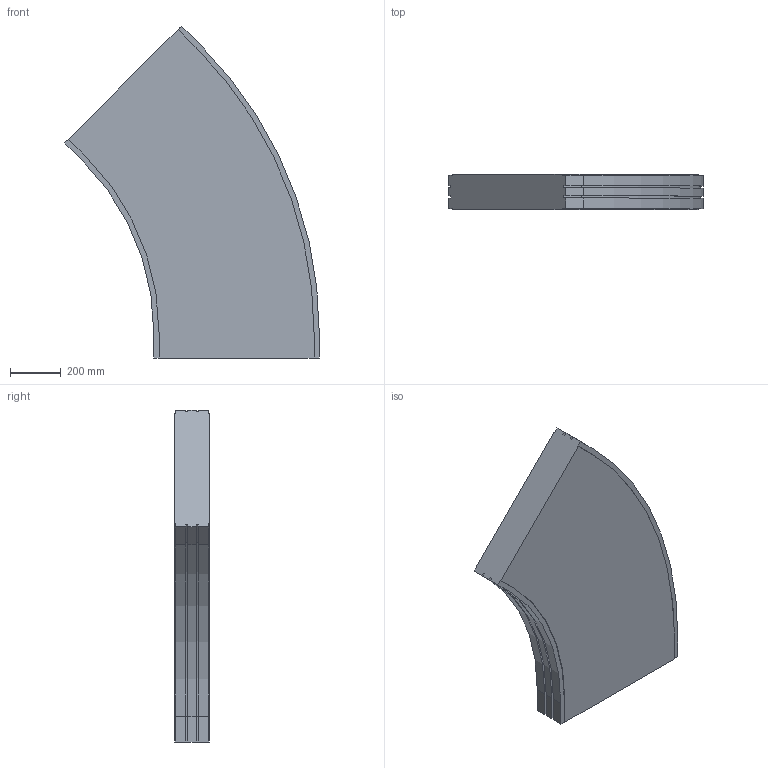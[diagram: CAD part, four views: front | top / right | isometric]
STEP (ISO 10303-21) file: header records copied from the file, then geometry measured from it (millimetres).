
FILE_DESCRIPTION (( 'STEP AP214' ), '1' );
FILE_NAME ('02.150H45.650.N FS-MTC-150 Bocht horizontaal 45°.STEP', '2013-03-29T11:20:22', ( 'Gebruiker' ), ( '' ), 'SwSTEP 2.0', 'SolidWorks 2012', '' );
FILE_SCHEMA (( 'AUTOMOTIVE_DESIGN' ));
Length unit declared in the file: millimetre
Products named in the file (1): 02.150H45.650.N FS-MTC-150 Bocht horizontaal 45°
Bounding box: 1000.85 x 136 x 1305.79 mm (x, y, z)
Volume: 105934062.4 mm3; surface area: 2177798.3 mm2
Topology: 1 solids, 1 shells, 58 faces, 168 edges, 112 vertices
Faces by surface type: plane 44, cylinder 14
Entity records: 1934 total; most frequent: CARTESIAN_POINT 339, ORIENTED_EDGE 336, DIRECTION 314, EDGE_CURVE 168, LINE 140, VECTOR 140, VERTEX_POINT 112, AXIS2_PLACEMENT_3D 87
